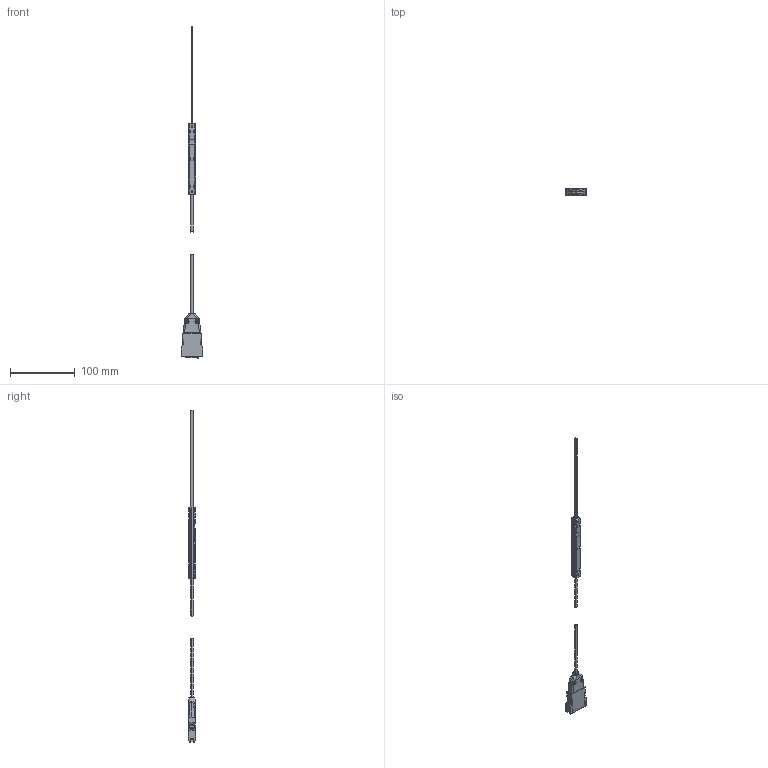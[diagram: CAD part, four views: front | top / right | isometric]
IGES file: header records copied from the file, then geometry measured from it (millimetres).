
Start section: SolidWorks IGES file using NURBS representation for surfaces
Global section: file name: M:\3_Projects\XIP Gaussmeter\Probe exterior models\FP-2X-250-TS15M.IGS; native system: SolidWorks 2017; preprocessor: SolidWorks 2017; author: jeremy.bluestein; date: 180518.105723; units: millimetre
Bounding box: 33.27 x 10.74 x 512.59 mm (x, y, z)
Volume: 31579.8 mm3; surface area: 16868.2 mm2
Topology: 2 solids, 2 shells, 748 faces, 4252 edges, 5584 vertices
Faces by surface type: bspline 748
